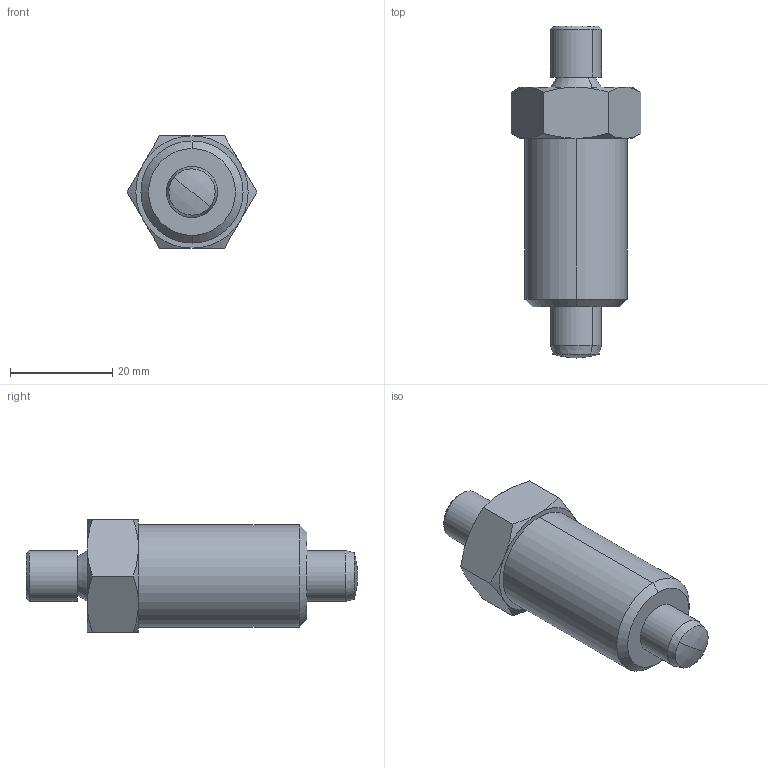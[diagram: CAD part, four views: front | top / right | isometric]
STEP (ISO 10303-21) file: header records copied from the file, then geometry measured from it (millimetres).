
FILE_DESCRIPTION (( 'STEP AP203' ), '1' );
FILE_NAME ('32700.W0430.step', '2011-03-28T12:01:55', ( 'Wixroyd' ), ( 'Wixroyd' ), 'SwSTEP 2.0', 'SolidWorks 2009', '' );
FILE_SCHEMA (( 'CONFIG_CONTROL_DESIGN' ));
Length unit declared in the file: millimetre
Products named in the file (4): Part1_3270.W430; Part2_3270.W430; Part4_3270.W430; 32700.W0430
Assembly tree (3 placements, depth 2):
  32700.W0430
    Part2_3270.W430
    Part1_3270.W430
    Part4_3270.W430
Bounding box: 25.4 x 65 x 22 mm (x, y, z)
Volume: 13684.3 mm3; surface area: 7707.6 mm2
Topology: 3 solids, 3 shells, 149 faces, 392 edges, 255 vertices
Faces by surface type: plane 107, cylinder 20, cone 20, sphere 2
Entity records: 5132 total; most frequent: CARTESIAN_POINT 962, DIRECTION 802, ORIENTED_EDGE 784, EDGE_CURVE 392, AXIS2_PLACEMENT_3D 279, VERTEX_POINT 255, VECTOR 244, LINE 244
